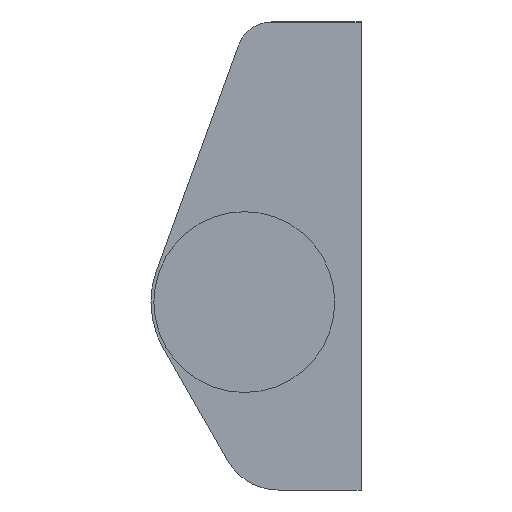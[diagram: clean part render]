
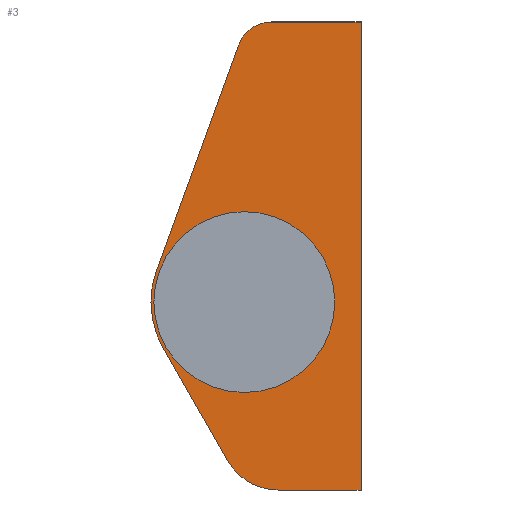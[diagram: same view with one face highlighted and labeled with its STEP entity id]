
A CAD part, front view. The second image highlights one B-rep face of the part: STEP entity #3.
In plain terms, the highlighted planar face has unit normal (0, -1, 0).
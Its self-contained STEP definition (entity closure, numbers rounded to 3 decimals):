
#3 = ADVANCED_FACE ( 'NONE', ( #284, #280 ), #166, .F. ) ;
#30 = DIRECTION ( 'NONE',  ( -0.497, 0., 0.868 ) ) ;
#31 = CARTESIAN_POINT ( 'NONE',  ( -6.942, 364., -3.975 ) ) ;
#34 = DIRECTION ( 'NONE',  ( 1., 0., 0. ) ) ;
#35 = DIRECTION ( 'NONE',  ( 0., 1., 0. ) ) ;
#36 = CARTESIAN_POINT ( 'NONE',  ( 2.899, 364., -11.1 ) ) ;
#54 = VERTEX_POINT ( 'NONE', #108 ) ;
#56 = DIRECTION ( 'NONE',  ( 1., 0., 0. ) ) ;
#58 = DIRECTION ( 'NONE',  ( 0., 1., 0. ) ) ;
#59 = CARTESIAN_POINT ( 'NONE',  ( 0., 364., 0. ) ) ;
#61 = DIRECTION ( 'NONE',  ( 1., 0., 0. ) ) ;
#62 = DIRECTION ( 'NONE',  ( 0., 1., 0. ) ) ;
#63 = CARTESIAN_POINT ( 'NONE',  ( 0., 364., 0. ) ) ;
#67 = DIRECTION ( 'NONE',  ( 0., 0., -1. ) ) ;
#68 = CARTESIAN_POINT ( 'NONE',  ( 10., 364., -16.1 ) ) ;
#88 = CARTESIAN_POINT ( 'NONE',  ( -6., 364., 0. ) ) ;
#89 = CARTESIAN_POINT ( 'NONE',  ( -7.518, 364., 2.736 ) ) ;
#91 = CARTESIAN_POINT ( 'NONE',  ( 6., 364., 0. ) ) ;
#92 = CARTESIAN_POINT ( 'NONE',  ( 10., 364., -16.1 ) ) ;
#93 = CARTESIAN_POINT ( 'NONE',  ( 2.899, 364., -16.1 ) ) ;
#94 = CARTESIAN_POINT ( 'NONE',  ( 10., 364., 24. ) ) ;
#95 = CARTESIAN_POINT ( 'NONE',  ( 2.322, 364., 24. ) ) ;
#96 = CARTESIAN_POINT ( 'NONE',  ( -0.497, 364., 22.026 ) ) ;
#97 = CARTESIAN_POINT ( 'NONE',  ( -6.942, 364., -3.975 ) ) ;
#98 = CARTESIAN_POINT ( 'NONE',  ( -1.44, 364., -13.584 ) ) ;
#108 = CARTESIAN_POINT ( 'NONE',  ( -8., 364., 0. ) ) ;
#164 = DIRECTION ( 'NONE',  ( 1., 0., 0. ) ) ;
#165 = DIRECTION ( 'NONE',  ( 0., 1., 0. ) ) ;
#166 = PLANE ( 'NONE',  #511 ) ;
#167 = CARTESIAN_POINT ( 'NONE',  ( 2.322, 364., 21. ) ) ;
#177 = VERTEX_POINT ( 'NONE', #98 ) ;
#178 = VERTEX_POINT ( 'NONE', #97 ) ;
#179 = VERTEX_POINT ( 'NONE', #96 ) ;
#180 = VERTEX_POINT ( 'NONE', #95 ) ;
#181 = VERTEX_POINT ( 'NONE', #94 ) ;
#182 = VERTEX_POINT ( 'NONE', #93 ) ;
#183 = VERTEX_POINT ( 'NONE', #92 ) ;
#184 = VERTEX_POINT ( 'NONE', #91 ) ;
#186 = VERTEX_POINT ( 'NONE', #89 ) ;
#187 = VERTEX_POINT ( 'NONE', #88 ) ;
#197 = CIRCLE ( 'NONE', #483, 3. ) ;
#198 = VECTOR ( 'NONE', #535, 1000. ) ;
#200 = LINE ( 'NONE', #450, #198 ) ;
#207 = CIRCLE ( 'NONE', #505, 8. ) ;
#209 = CIRCLE ( 'NONE', #501, 6. ) ;
#210 = VECTOR ( 'NONE', #398, 1000. ) ;
#215 = LINE ( 'NONE', #400, #210 ) ;
#216 = VECTOR ( 'NONE', #409, 1000. ) ;
#218 = LINE ( 'NONE', #415, #216 ) ;
#228 = VECTOR ( 'NONE', #30, 1000. ) ;
#229 = LINE ( 'NONE', #31, #228 ) ;
#230 = CIRCLE ( 'NONE', #479, 5. ) ;
#241 = CIRCLE ( 'NONE', #458, 8. ) ;
#242 = CIRCLE ( 'NONE', #488, 6. ) ;
#249 = LINE ( 'NONE', #68, #256 ) ;
#256 = VECTOR ( 'NONE', #67, 1000. ) ;
#280 = FACE_BOUND ( 'NONE', #286, .T. ) ;
#284 = FACE_OUTER_BOUND ( 'NONE', #291, .T. ) ;
#286 = EDGE_LOOP ( 'NONE', ( #363, #365 ) ) ;
#291 = EDGE_LOOP ( 'NONE', ( #344, #345, #346, #348, #350, #351, #352, #353, #364 ) ) ;
#344 = ORIENTED_EDGE ( 'NONE', *, *, #507, .F. ) ;
#345 = ORIENTED_EDGE ( 'NONE', *, *, #462, .F. ) ;
#346 = ORIENTED_EDGE ( 'NONE', *, *, #490, .F. ) ;
#348 = ORIENTED_EDGE ( 'NONE', *, *, #523, .F. ) ;
#350 = ORIENTED_EDGE ( 'NONE', *, *, #527, .F. ) ;
#351 = ORIENTED_EDGE ( 'NONE', *, *, #466, .F. ) ;
#352 = ORIENTED_EDGE ( 'NONE', *, *, #504, .F. ) ;
#353 = ORIENTED_EDGE ( 'NONE', *, *, #481, .F. ) ;
#363 = ORIENTED_EDGE ( 'NONE', *, *, #464, .T. ) ;
#364 = ORIENTED_EDGE ( 'NONE', *, *, #478, .F. ) ;
#365 = ORIENTED_EDGE ( 'NONE', *, *, #500, .T. ) ;
#389 = CARTESIAN_POINT ( 'NONE',  ( 2.322, 364., 21. ) ) ;
#391 = CARTESIAN_POINT ( 'NONE',  ( 0., 364., 0. ) ) ;
#392 = DIRECTION ( 'NONE',  ( 1., 0., 0. ) ) ;
#396 = DIRECTION ( 'NONE',  ( 0., 1., 0. ) ) ;
#397 = DIRECTION ( 'NONE',  ( 1., 0., 0. ) ) ;
#398 = DIRECTION ( 'NONE',  ( -1., 0., 0. ) ) ;
#399 = DIRECTION ( 'NONE',  ( 0., 1., 0. ) ) ;
#400 = CARTESIAN_POINT ( 'NONE',  ( 2.899, 364., -16.1 ) ) ;
#402 = CARTESIAN_POINT ( 'NONE',  ( 0., 364., 0. ) ) ;
#409 = DIRECTION ( 'NONE',  ( 1., 0., 0. ) ) ;
#415 = CARTESIAN_POINT ( 'NONE',  ( 10., 364., 24. ) ) ;
#444 = DIRECTION ( 'NONE',  ( 1., 0., 0. ) ) ;
#449 = DIRECTION ( 'NONE',  ( 0., 1., 0. ) ) ;
#450 = CARTESIAN_POINT ( 'NONE',  ( -0.497, 364., 22.026 ) ) ;
#458 = AXIS2_PLACEMENT_3D ( 'NONE', #59, #58, #56 ) ;
#462 = EDGE_CURVE ( 'NONE', #181, #183, #249, .T. ) ;
#464 = EDGE_CURVE ( 'NONE', #184, #187, #242, .T. ) ;
#466 = EDGE_CURVE ( 'NONE', #54, #186, #241, .T. ) ;
#478 = EDGE_CURVE ( 'NONE', #182, #177, #230, .T. ) ;
#479 = AXIS2_PLACEMENT_3D ( 'NONE', #36, #35, #34 ) ;
#481 = EDGE_CURVE ( 'NONE', #177, #178, #229, .T. ) ;
#483 = AXIS2_PLACEMENT_3D ( 'NONE', #389, #449, #444 ) ;
#488 = AXIS2_PLACEMENT_3D ( 'NONE', #63, #62, #61 ) ;
#490 = EDGE_CURVE ( 'NONE', #180, #181, #218, .T. ) ;
#500 = EDGE_CURVE ( 'NONE', #187, #184, #209, .T. ) ;
#501 = AXIS2_PLACEMENT_3D ( 'NONE', #402, #399, #397 ) ;
#504 = EDGE_CURVE ( 'NONE', #178, #54, #207, .T. ) ;
#505 = AXIS2_PLACEMENT_3D ( 'NONE', #391, #396, #392 ) ;
#507 = EDGE_CURVE ( 'NONE', #183, #182, #215, .T. ) ;
#511 = AXIS2_PLACEMENT_3D ( 'NONE', #167, #165, #164 ) ;
#523 = EDGE_CURVE ( 'NONE', #179, #180, #197, .T. ) ;
#527 = EDGE_CURVE ( 'NONE', #186, #179, #200, .T. ) ;
#535 = DIRECTION ( 'NONE',  ( 0.342, 0., 0.94 ) ) ;
